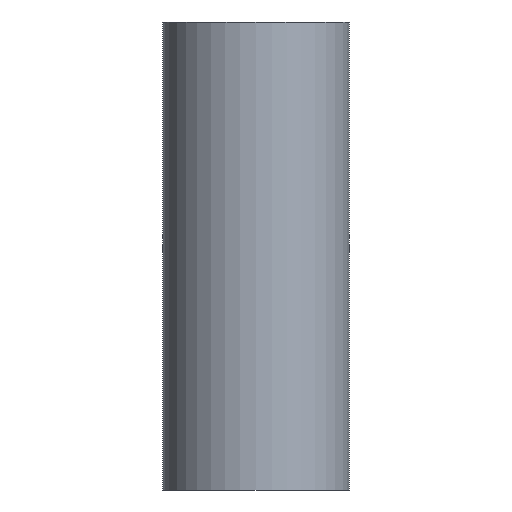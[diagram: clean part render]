
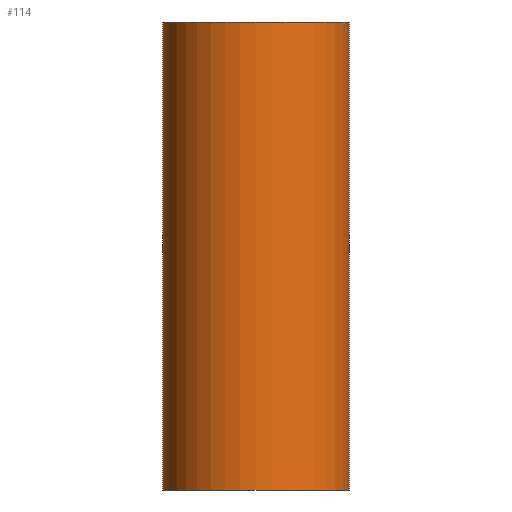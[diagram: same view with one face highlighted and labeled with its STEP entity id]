
A CAD part, front view. The second image highlights one B-rep face of the part: STEP entity #114.
In plain terms, the highlighted cylindrical face has radius 30 mm (diameter 60 mm), a partial arc.
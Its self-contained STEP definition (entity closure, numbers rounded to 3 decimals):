
#114=ADVANCED_FACE('',(#145),#144,.T.);
#144=CYLINDRICAL_SURFACE('',#257,30.);
#145=FACE_OUTER_BOUND('',#258,.T.);
#254=CARTESIAN_POINT('',(0.,0.,150.));
#255=DIRECTION('',(0.,0.,1.));
#256=DIRECTION('',(1.,0.,0.));
#257=AXIS2_PLACEMENT_3D('',#254,#255,#256);
#258=EDGE_LOOP('',(#312,#313,#314,#315));
#312=ORIENTED_EDGE('',*,*,#359,.T.);
#313=ORIENTED_EDGE('',*,*,#360,.F.);
#314=ORIENTED_EDGE('',*,*,#361,.F.);
#315=ORIENTED_EDGE('',*,*,#357,.T.);
#357=EDGE_CURVE('',#411,#404,#412,.T.);
#359=EDGE_CURVE('',#404,#424,#425,.T.);
#360=EDGE_CURVE('',#431,#424,#432,.T.);
#361=EDGE_CURVE('',#411,#431,#438,.T.);
#404=VERTEX_POINT('',#554);
#411=VERTEX_POINT('',#558);
#412=LINE('',#559,#560);
#424=VERTEX_POINT('',#565);
#425=CIRCLE('',#569,30.);
#431=VERTEX_POINT('',#570);
#432=LINE('',#571,#572);
#438=CIRCLE('',#577,30.);
#554=CARTESIAN_POINT('',(-29.962,-1.5,0.));
#558=CARTESIAN_POINT('',(-29.962,-1.5,150.));
#559=CARTESIAN_POINT('',(-29.962,-1.5,150.));
#560=VECTOR('',#561,150.);
#561=DIRECTION('',(0.,0.,-1.));
#565=CARTESIAN_POINT('',(29.962,-1.5,0.));
#566=CARTESIAN_POINT('',(0.,0.,0.));
#567=DIRECTION('',(0.,0.,1.));
#568=DIRECTION('',(-1.,0.,0.));
#569=AXIS2_PLACEMENT_3D('',#566,#567,#568);
#570=CARTESIAN_POINT('',(29.962,-1.5,150.));
#571=CARTESIAN_POINT('',(29.962,-1.5,150.));
#572=VECTOR('',#573,150.);
#573=DIRECTION('',(0.,0.,-1.));
#574=CARTESIAN_POINT('',(0.,0.,150.));
#575=DIRECTION('',(0.,0.,1.));
#576=DIRECTION('',(-1.,0.,0.));
#577=AXIS2_PLACEMENT_3D('',#574,#575,#576);
